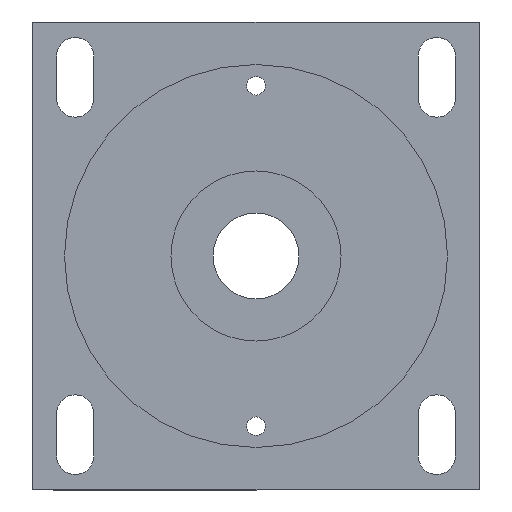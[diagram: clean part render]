
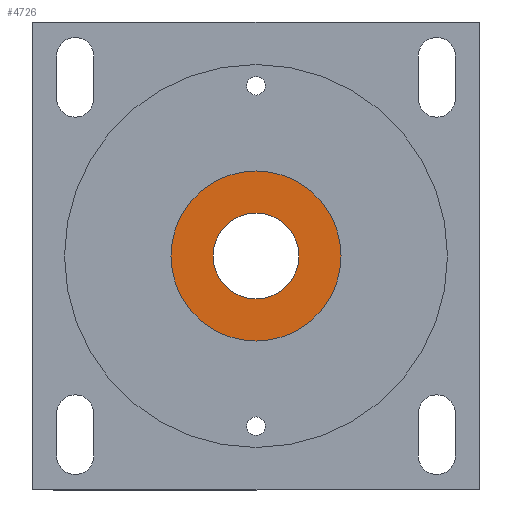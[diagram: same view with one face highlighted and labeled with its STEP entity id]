
A CAD part, front view. The second image highlights one B-rep face of the part: STEP entity #4726.
In plain terms, the highlighted planar face has unit normal (0, -1, 0).
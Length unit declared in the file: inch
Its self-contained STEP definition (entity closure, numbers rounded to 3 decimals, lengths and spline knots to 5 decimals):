
#88 = FACE_OUTER_BOUND ( 'NONE', #3945, .T. ) ;
#169 = VERTEX_POINT ( 'NONE', #2264 ) ;
#185 = AXIS2_PLACEMENT_3D ( 'NONE', #4540, #3369, #1022 ) ;
#206 = DIRECTION ( 'NONE',  ( 1., 0., 0.001 ) ) ;
#808 = EDGE_CURVE ( 'NONE', #4892, #2191, #1675, .T. ) ;
#958 = EDGE_CURVE ( 'NONE', #5027, #169, #2092, .T. ) ;
#1022 = DIRECTION ( 'NONE',  ( -1., 0., -0.001 ) ) ;
#1322 = ORIENTED_EDGE ( 'NONE', *, *, #808, .F. ) ;
#1335 = ORIENTED_EDGE ( 'NONE', *, *, #958, .F. ) ;
#1374 = CIRCLE ( 'NONE', #4521, 1.39 ) ;
#1557 = CARTESIAN_POINT ( 'NONE',  ( 4.0304, 3.2705, 3.73938 ) ) ;
#1573 = DIRECTION ( 'NONE',  ( 0., 1., 0. ) ) ;
#1617 = CARTESIAN_POINT ( 'NONE',  ( 2.1354, 3.2705, 3.73783 ) ) ;
#1675 = CIRCLE ( 'NONE', #4962, 1.39 ) ;
#1781 = DIRECTION ( 'NONE',  ( 0., 1., 0. ) ) ;
#2072 = CARTESIAN_POINT ( 'NONE',  ( 2.6404, 3.2705, 3.73824 ) ) ;
#2092 = CIRCLE ( 'NONE', #2775, 0.505 ) ;
#2167 = FACE_BOUND ( 'NONE', #3067, .T. ) ;
#2191 = VERTEX_POINT ( 'NONE', #2816 ) ;
#2264 = CARTESIAN_POINT ( 'NONE',  ( 3.1454, 3.2705, 3.73866 ) ) ;
#2473 = DIRECTION ( 'NONE',  ( 1., 0., 0.001 ) ) ;
#2491 = CIRCLE ( 'NONE', #4293, 0.505 ) ;
#2560 = DIRECTION ( 'NONE',  ( 0., -1., 0. ) ) ;
#2775 = AXIS2_PLACEMENT_3D ( 'NONE', #2072, #4824, #2473 ) ;
#2816 = CARTESIAN_POINT ( 'NONE',  ( 1.2504, 3.2705, 3.7371 ) ) ;
#2980 = PLANE ( 'NONE',  #185 ) ;
#3067 = EDGE_LOOP ( 'NONE', ( #3273, #1335 ) ) ;
#3273 = ORIENTED_EDGE ( 'NONE', *, *, #3359, .F. ) ;
#3359 = EDGE_CURVE ( 'NONE', #169, #5027, #2491, .T. ) ;
#3369 = DIRECTION ( 'NONE',  ( 0., 1., 0. ) ) ;
#3917 = CARTESIAN_POINT ( 'NONE',  ( 2.6404, 3.2705, 3.73824 ) ) ;
#3945 = EDGE_LOOP ( 'NONE', ( #4639, #1322 ) ) ;
#4070 = EDGE_CURVE ( 'NONE', #2191, #4892, #1374, .T. ) ;
#4140 = CARTESIAN_POINT ( 'NONE',  ( 2.6404, 3.2705, 3.73824 ) ) ;
#4293 = AXIS2_PLACEMENT_3D ( 'NONE', #4903, #2560, #206 ) ;
#4317 = DIRECTION ( 'NONE',  ( -1., 0., -0.001 ) ) ;
#4521 = AXIS2_PLACEMENT_3D ( 'NONE', #4140, #1781, #4525 ) ;
#4525 = DIRECTION ( 'NONE',  ( -1., 0., -0.001 ) ) ;
#4540 = CARTESIAN_POINT ( 'NONE',  ( 2.6404, 3.2705, 3.73824 ) ) ;
#4639 = ORIENTED_EDGE ( 'NONE', *, *, #4070, .F. ) ;
#4726 = ADVANCED_FACE ( 'NONE', ( #2167, #88 ), #2980, .F. ) ;
#4824 = DIRECTION ( 'NONE',  ( 0., -1., 0. ) ) ;
#4892 = VERTEX_POINT ( 'NONE', #1557 ) ;
#4903 = CARTESIAN_POINT ( 'NONE',  ( 2.6404, 3.2705, 3.73824 ) ) ;
#4962 = AXIS2_PLACEMENT_3D ( 'NONE', #3917, #1573, #4317 ) ;
#5027 = VERTEX_POINT ( 'NONE', #1617 ) ;
